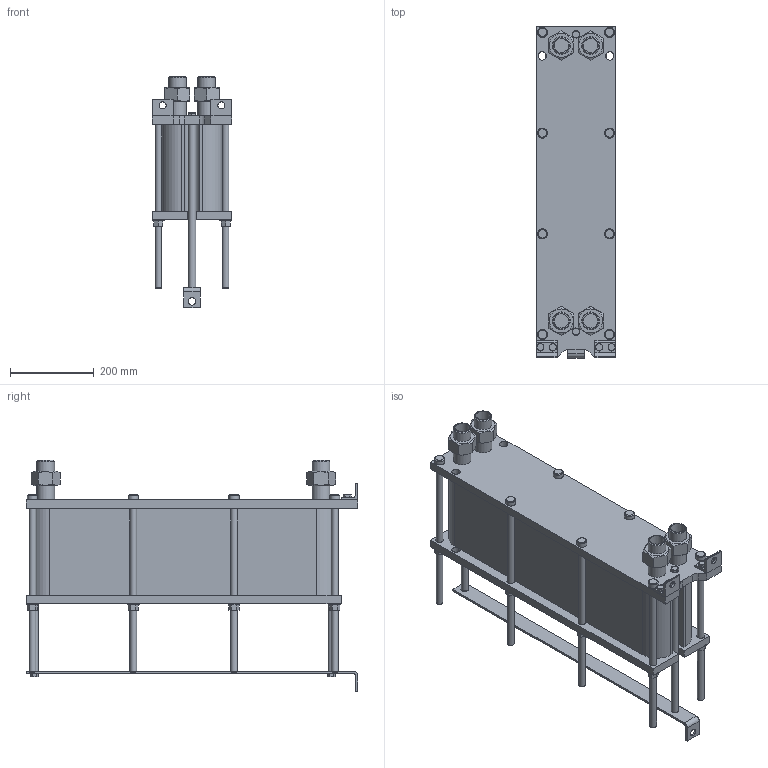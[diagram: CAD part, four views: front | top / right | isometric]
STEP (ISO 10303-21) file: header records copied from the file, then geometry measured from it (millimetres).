
FILE_DESCRIPTION(/* description */ (''),/* implementation_level */ '2;1');
FILE_NAME(/* name */ 'C:\Users\zhuro\Desktop\ENCO\TO\ЭН-008\ЭН-0,5-008-67-1.stp',/* time_stamp */ '2022-06-06T10:51:10+03:00',/* author */ ('zhuro'),/* organization */ (''),/* preprocessor_version */ 'ST-DEVELOPER v18.1',/* originating_system */ 'Autodesk Inventor 2022',/* authorisation */ '');
FILE_SCHEMA (('AUTOMOTIVE_DESIGN { 1 0 10303 214 3 1 1 }'));
Length unit declared in the file: millimetre
Products named in the file (1): ЭН-0,5-008-67-1
Bounding box: 190 x 790 x 550.6 mm (x, y, z)
Volume: 28003999.2 mm3; surface area: 1742383.4 mm2
Topology: 40 solids, 40 shells, 428 faces, 924 edges, 606 vertices
Faces by surface type: plane 273, cylinder 109, cone 40, torus 6
Full cylindrical faces by diameter (mm): 12 x6, 14 x2, 16 x20, 17 x8, 18 x19, 20 x5, 24 x8, 28 x8, 34.3 x8, 42.3 x8
Entity records: 15843 total; most frequent: CARTESIAN_POINT 5991, DIRECTION 1984, ORIENTED_EDGE 1848, EDGE_CURVE 924, AXIS2_PLACEMENT_3D 715, VERTEX_POINT 606, LINE 554, VECTOR 554
